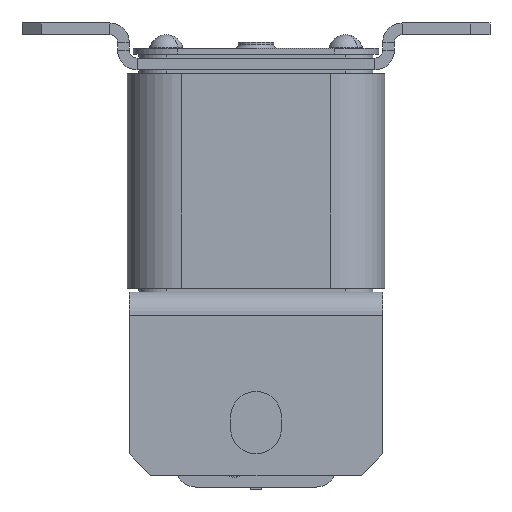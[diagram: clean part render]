
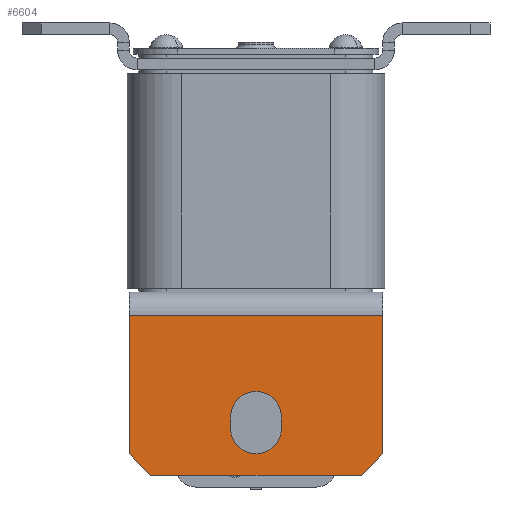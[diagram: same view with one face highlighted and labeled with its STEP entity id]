
A CAD part, front view. The second image highlights one B-rep face of the part: STEP entity #6604.
In plain terms, the highlighted planar face has unit normal (0, -1, 0).
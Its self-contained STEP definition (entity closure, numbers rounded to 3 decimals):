
#329 = DIRECTION ( 'NONE',  ( 1., 0., 0. ) ) ;
#706 = CARTESIAN_POINT ( 'NONE',  ( -29.868, -16.503, -88. ) ) ;
#1347 = EDGE_CURVE ( 'NONE', #3675, #15203, #18015, .T. ) ;
#1596 = EDGE_CURVE ( 'NONE', #7509, #27165, #6122, .T. ) ;
#2012 = ORIENTED_EDGE ( 'NONE', *, *, #16139, .T. ) ;
#2083 = VERTEX_POINT ( 'NONE', #11323 ) ;
#2887 = VERTEX_POINT ( 'NONE', #20961 ) ;
#3046 = DIRECTION ( 'NONE',  ( 0., 0., 1. ) ) ;
#3354 = DIRECTION ( 'NONE',  ( 0., -1., 0. ) ) ;
#3675 = VERTEX_POINT ( 'NONE', #15252 ) ;
#3795 = VECTOR ( 'NONE', #18822, 1000. ) ;
#4092 = VERTEX_POINT ( 'NONE', #13185 ) ;
#5141 = VECTOR ( 'NONE', #329, 1000. ) ;
#5493 = ORIENTED_EDGE ( 'NONE', *, *, #7449, .F. ) ;
#5556 = CARTESIAN_POINT ( 'NONE',  ( -29.868, -16.503, -91. ) ) ;
#6122 = LINE ( 'NONE', #9525, #18369 ) ;
#6604 = ADVANCED_FACE ( 'NONE', ( #29627, #18813 ), #12119, .F. ) ;
#7359 = EDGE_CURVE ( 'NONE', #10547, #26684, #25554, .T. ) ;
#7440 = CARTESIAN_POINT ( 'NONE',  ( -36.368, -16.503, -88. ) ) ;
#7449 = EDGE_CURVE ( 'NONE', #26684, #7509, #15039, .T. ) ;
#7509 = VERTEX_POINT ( 'NONE', #7440 ) ;
#7551 = EDGE_CURVE ( 'NONE', #2887, #10547, #27687, .T. ) ;
#8587 = CARTESIAN_POINT ( 'NONE',  ( 2.632, -16.503, -62. ) ) ;
#9252 = ORIENTED_EDGE ( 'NONE', *, *, #7359, .F. ) ;
#9525 = CARTESIAN_POINT ( 'NONE',  ( -36.368, -16.503, -91. ) ) ;
#10061 = CARTESIAN_POINT ( 'NONE',  ( -62.368, -16.503, -59. ) ) ;
#10512 = VECTOR ( 'NONE', #15535, 1000. ) ;
#10547 = VERTEX_POINT ( 'NONE', #11847 ) ;
#11243 = LINE ( 'NONE', #11908, #5141 ) ;
#11247 = ORIENTED_EDGE ( 'NONE', *, *, #7551, .F. ) ;
#11259 = CARTESIAN_POINT ( 'NONE',  ( -56.868, -16.503, -103. ) ) ;
#11323 = CARTESIAN_POINT ( 'NONE',  ( -2.868, -16.503, -103. ) ) ;
#11819 = EDGE_CURVE ( 'NONE', #27165, #2887, #26630, .T. ) ;
#11827 = LINE ( 'NONE', #14165, #12538 ) ;
#11847 = CARTESIAN_POINT ( 'NONE',  ( -23.368, -16.503, -91. ) ) ;
#11908 = CARTESIAN_POINT ( 'NONE',  ( -62.368, -16.503, -62. ) ) ;
#12100 = AXIS2_PLACEMENT_3D ( 'NONE', #19542, #17401, #14978 ) ;
#12119 = PLANE ( 'NONE',  #17664 ) ;
#12324 = LINE ( 'NONE', #20412, #10512 ) ;
#12408 = DIRECTION ( 'NONE',  ( 0., 0., -1. ) ) ;
#12538 = VECTOR ( 'NONE', #13966, 1000. ) ;
#12868 = VERTEX_POINT ( 'NONE', #22617 ) ;
#12912 = VECTOR ( 'NONE', #25509, 1000. ) ;
#13185 = CARTESIAN_POINT ( 'NONE',  ( -62.368, -16.503, -62. ) ) ;
#13229 = EDGE_CURVE ( 'NONE', #12868, #28740, #15198, .T. ) ;
#13747 = CARTESIAN_POINT ( 'NONE',  ( -2.868, -16.503, -103. ) ) ;
#13780 = CARTESIAN_POINT ( 'NONE',  ( -23.368, -16.503, -91. ) ) ;
#13966 = DIRECTION ( 'NONE',  ( 1., 0., 0. ) ) ;
#14165 = CARTESIAN_POINT ( 'NONE',  ( -2.868, -16.503, -103. ) ) ;
#14978 = DIRECTION ( 'NONE',  ( 0., 0., 1. ) ) ;
#15039 = CIRCLE ( 'NONE', #19440, 6.5 ) ;
#15198 = LINE ( 'NONE', #29379, #19922 ) ;
#15203 = VERTEX_POINT ( 'NONE', #11259 ) ;
#15252 = CARTESIAN_POINT ( 'NONE',  ( -62.368, -16.503, -97.5 ) ) ;
#15384 = ORIENTED_EDGE ( 'NONE', *, *, #16252, .F. ) ;
#15535 = DIRECTION ( 'NONE',  ( 0., 0., -1. ) ) ;
#16121 = ORIENTED_EDGE ( 'NONE', *, *, #13229, .T. ) ;
#16139 = EDGE_CURVE ( 'NONE', #4092, #3675, #12324, .T. ) ;
#16252 = EDGE_CURVE ( 'NONE', #4092, #28740, #11243, .T. ) ;
#16398 = CARTESIAN_POINT ( 'NONE',  ( -36.368, -16.503, -91. ) ) ;
#16848 = EDGE_CURVE ( 'NONE', #15203, #2083, #11827, .T. ) ;
#17379 = EDGE_LOOP ( 'NONE', ( #15384, #2012, #19178, #20976, #29261, #16121 ) ) ;
#17401 = DIRECTION ( 'NONE',  ( 0., -1., 0. ) ) ;
#17644 = VECTOR ( 'NONE', #29114, 1000. ) ;
#17664 = AXIS2_PLACEMENT_3D ( 'NONE', #10061, #23700, #12408 ) ;
#18015 = LINE ( 'NONE', #29216, #17644 ) ;
#18369 = VECTOR ( 'NONE', #27909, 1000. ) ;
#18813 = FACE_OUTER_BOUND ( 'NONE', #17379, .T. ) ;
#18822 = DIRECTION ( 'NONE',  ( 0.707, 0., 0.707 ) ) ;
#19178 = ORIENTED_EDGE ( 'NONE', *, *, #1347, .T. ) ;
#19440 = AXIS2_PLACEMENT_3D ( 'NONE', #706, #28421, #3046 ) ;
#19542 = CARTESIAN_POINT ( 'NONE',  ( -29.868, -16.503, -91. ) ) ;
#19745 = AXIS2_PLACEMENT_3D ( 'NONE', #5556, #3354, #23982 ) ;
#19922 = VECTOR ( 'NONE', #29171, 1000. ) ;
#20412 = CARTESIAN_POINT ( 'NONE',  ( -62.368, -16.503, -97.5 ) ) ;
#20961 = CARTESIAN_POINT ( 'NONE',  ( -29.868, -16.503, -97.5 ) ) ;
#20976 = ORIENTED_EDGE ( 'NONE', *, *, #16848, .T. ) ;
#22617 = CARTESIAN_POINT ( 'NONE',  ( 2.632, -16.503, -97.5 ) ) ;
#23700 = DIRECTION ( 'NONE',  ( 0., 1., 0. ) ) ;
#23982 = DIRECTION ( 'NONE',  ( 0., 0., 1. ) ) ;
#25509 = DIRECTION ( 'NONE',  ( 0., 0., 1. ) ) ;
#25554 = LINE ( 'NONE', #13780, #12912 ) ;
#25775 = LINE ( 'NONE', #13747, #3795 ) ;
#26630 = CIRCLE ( 'NONE', #19745, 6.5 ) ;
#26684 = VERTEX_POINT ( 'NONE', #28760 ) ;
#27165 = VERTEX_POINT ( 'NONE', #16398 ) ;
#27548 = EDGE_CURVE ( 'NONE', #2083, #12868, #25775, .T. ) ;
#27687 = CIRCLE ( 'NONE', #12100, 6.5 ) ;
#27845 = ORIENTED_EDGE ( 'NONE', *, *, #11819, .F. ) ;
#27909 = DIRECTION ( 'NONE',  ( 0., 0., -1. ) ) ;
#28421 = DIRECTION ( 'NONE',  ( 0., -1., 0. ) ) ;
#28740 = VERTEX_POINT ( 'NONE', #8587 ) ;
#28760 = CARTESIAN_POINT ( 'NONE',  ( -23.368, -16.503, -88. ) ) ;
#28840 = EDGE_LOOP ( 'NONE', ( #27845, #29117, #5493, #9252, #11247 ) ) ;
#29114 = DIRECTION ( 'NONE',  ( 0.707, 0., -0.707 ) ) ;
#29117 = ORIENTED_EDGE ( 'NONE', *, *, #1596, .F. ) ;
#29171 = DIRECTION ( 'NONE',  ( 0., 0., 1. ) ) ;
#29216 = CARTESIAN_POINT ( 'NONE',  ( -56.868, -16.503, -103. ) ) ;
#29261 = ORIENTED_EDGE ( 'NONE', *, *, #27548, .T. ) ;
#29379 = CARTESIAN_POINT ( 'NONE',  ( 2.632, -16.503, -59. ) ) ;
#29627 = FACE_BOUND ( 'NONE', #28840, .T. ) ;
